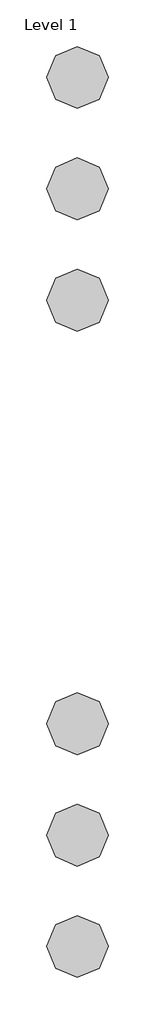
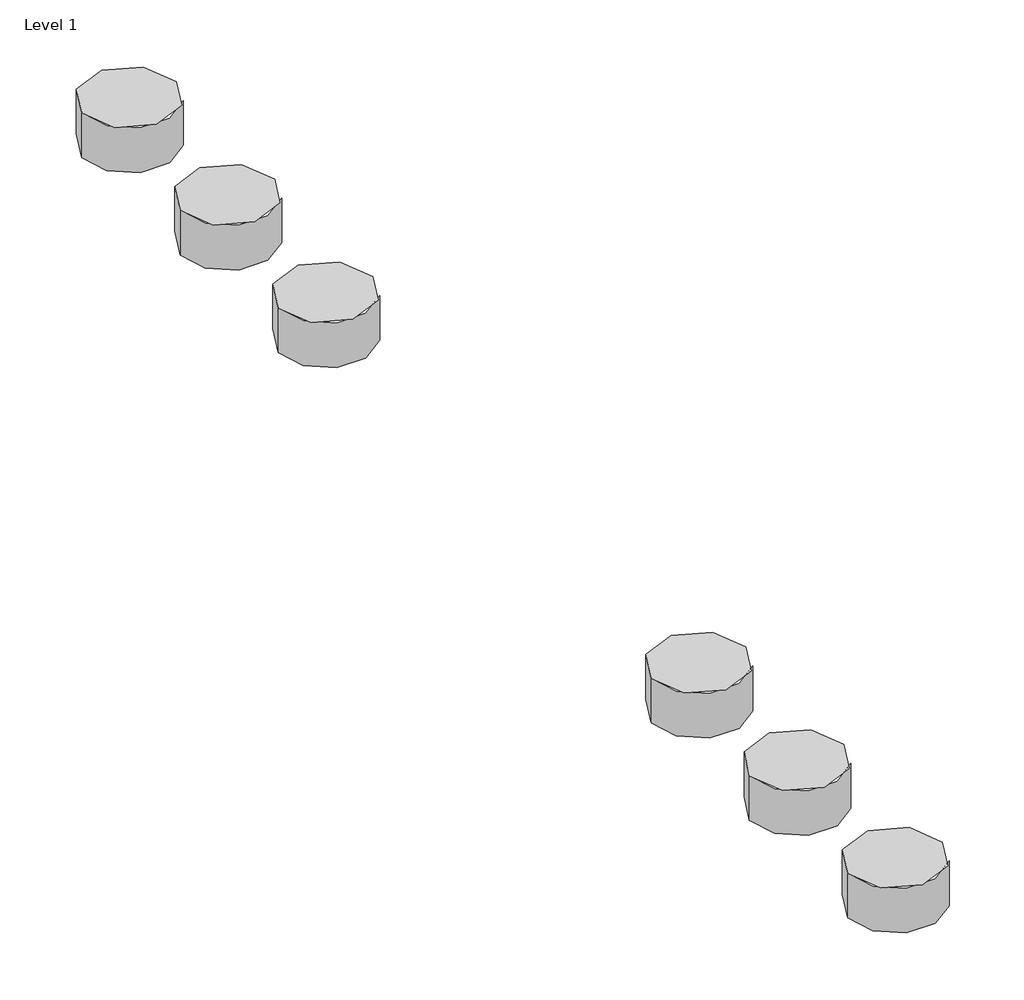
# One storey, incomplete: 6 proxies.
"""IFC4 building model written with IfcOpenShell, lengths in millimetres."""

from ifc_helpers import new_model, si_unit, origin, place, context, project, spatial, transform, mapped, element, save
from components import materialmodel_materialmodel_02e69005

model = new_model("IFC4")

# Units and contexts
model_context = context("Model", 3, world=origin())
ifc_project = project(units=[si_unit("LENGTHUNIT", "METRE", prefix="MILLI")], contexts=[model_context])

# Site, building, storey
site = spatial("IfcSite", under=ifc_project)
building = spatial("IfcBuilding", under=site)
storey = spatial("IfcBuildingStorey", under=building, Name="Level 1", Elevation=0.0)

# Proxies
placement = place(None, origin())
materialmodel_materialmodel_shape = materialmodel_materialmodel_02e69005(model_context)
element("IfcBuildingElementProxy", 1, Name="MaterialModel : MaterialModel", ObjectType="MaterialModel : MaterialModel", at=placement, inside=storey, context=model_context, shape_type="MappedRepresentation", body=[
    mapped(materialmodel_materialmodel_shape, transform((-5578.5286486, 4230.4560224, 0.0), x_axis=(1.0, 0.0, 0.0), y_axis=(0.0, 1.0, 0.0), z_axis=(0.0, 0.0, 1.0))),
])
element("IfcBuildingElementProxy", 2, Name="MaterialModel : MaterialModel", ObjectType="MaterialModel : MaterialModel", at=placement, inside=storey, context=model_context, shape_type="MappedRepresentation", body=[
    mapped(materialmodel_materialmodel_shape, transform((-5578.5286486, 4050.4560224, 0.0), x_axis=(1.0, 0.0, 0.0), y_axis=(0.0, 1.0, 0.0), z_axis=(0.0, 0.0, 1.0))),
])
element("IfcBuildingElementProxy", 3, Name="MaterialModel : MaterialModel", ObjectType="MaterialModel : MaterialModel", at=placement, inside=storey, context=model_context, shape_type="MappedRepresentation", body=[
    mapped(materialmodel_materialmodel_shape, transform((-5578.5286486, 3870.4560224, 0.0), x_axis=(1.0, 0.0, 0.0), y_axis=(0.0, 1.0, 0.0), z_axis=(0.0, 0.0, 1.0))),
])
element("IfcBuildingElementProxy", 4, Name="MaterialModel : MaterialModel", ObjectType="MaterialModel : MaterialModel", at=placement, inside=storey, context=model_context, shape_type="MappedRepresentation", body=[
    mapped(materialmodel_materialmodel_shape, transform((-5578.5286486, 3186.534927, 0.0), x_axis=(1.0, 0.0, 0.0), y_axis=(0.0, 1.0, 0.0), z_axis=(0.0, 0.0, 1.0))),
])
element("IfcBuildingElementProxy", 5, Name="MaterialModel : MaterialModel", ObjectType="MaterialModel : MaterialModel", at=placement, inside=storey, context=model_context, shape_type="MappedRepresentation", body=[
    mapped(materialmodel_materialmodel_shape, transform((-5578.5286486, 3006.534927, 0.0), x_axis=(1.0, 0.0, 0.0), y_axis=(0.0, 1.0, 0.0), z_axis=(0.0, 0.0, 1.0))),
])
element("IfcBuildingElementProxy", 6, Name="MaterialModel : MaterialModel", ObjectType="MaterialModel : MaterialModel", at=placement, inside=storey, context=model_context, shape_type="MappedRepresentation", body=[
    mapped(materialmodel_materialmodel_shape, transform((-5578.5286486, 2826.534927, 0.0), x_axis=(1.0, 0.0, 0.0), y_axis=(0.0, 1.0, 0.0), z_axis=(0.0, 0.0, 1.0))),
])

save(model, "model.ifc")
